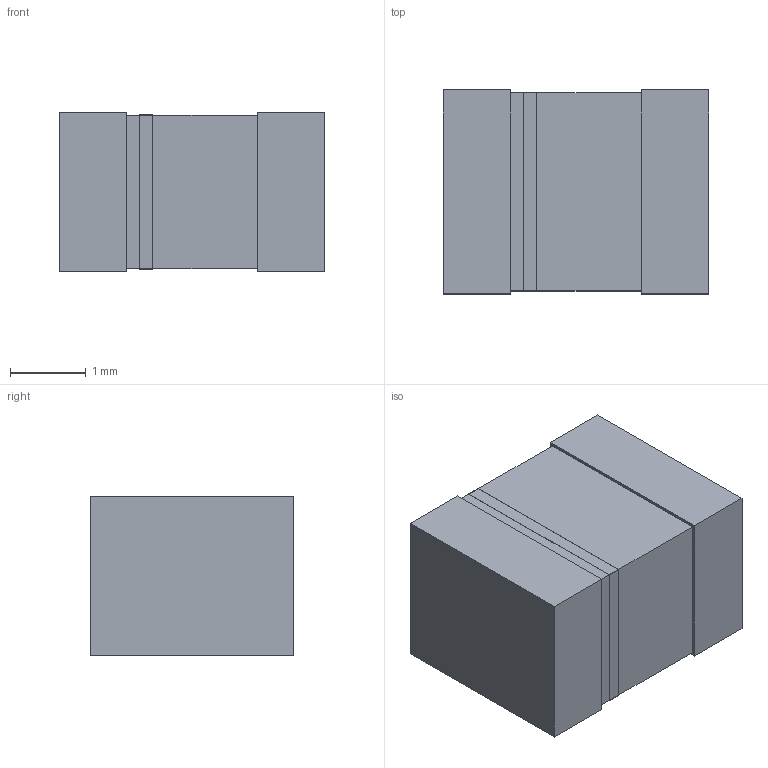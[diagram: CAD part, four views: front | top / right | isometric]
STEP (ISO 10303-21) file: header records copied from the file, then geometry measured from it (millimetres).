
FILE_DESCRIPTION(('STEP AP214'),'1');
FILE_NAME('MK325_1210__TAY','2021-08-29T12:30:58',(''),(''),'','','');
FILE_SCHEMA(('AUTOMOTIVE_DESIGN'));
Length unit declared in the file: millimetre
Products named in the file (1): product
Bounding box: 3.51 x 2.69 x 2.11 mm (x, y, z)
Volume: 19.3 mm3; surface area: 69.7 mm2
Topology: 4 solids, 4 shells, 30 faces, 64 edges, 40 vertices
Faces by surface type: plane 30
Entity records: 799 total; most frequent: ORIENTED_EDGE 128, DIRECTION 126, CARTESIAN_POINT 71, EDGE_CURVE 64, LINE 64, VECTOR 64, VERTEX_POINT 40, AXIS2_PLACEMENT_3D 31
